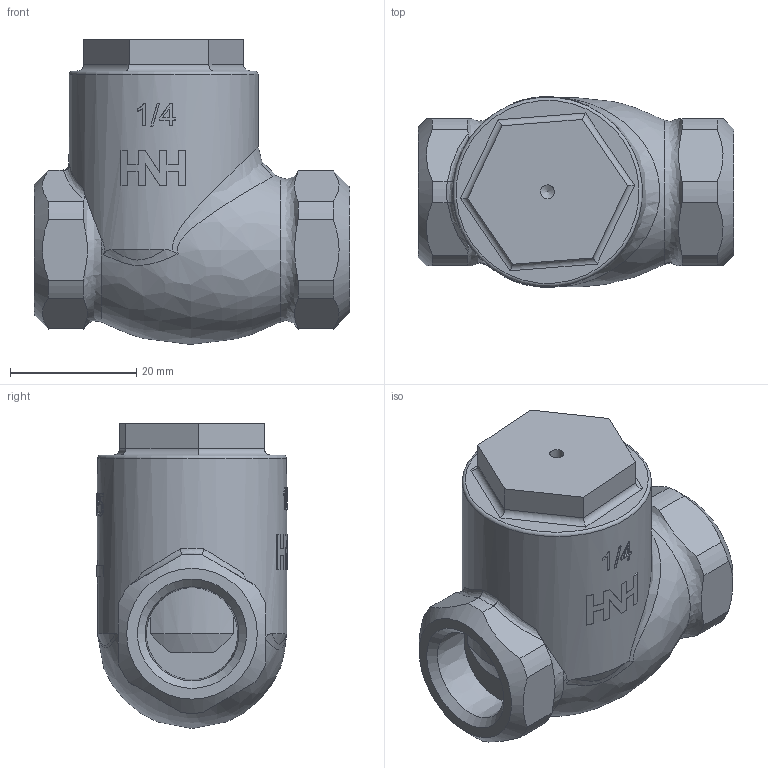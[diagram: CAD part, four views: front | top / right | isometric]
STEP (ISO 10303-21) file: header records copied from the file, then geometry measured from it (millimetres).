
FILE_DESCRIPTION((''),'2;1');
FILE_NAME('P:\Fastrack\53972_CRANE 3D\D142-138\Workspace\Check Valves\Fig-47_1-4in\Fig-47_1-4in.stp','2011-03-03T13:59:01',('btaylor'),(''),'Autodesk Inventor 2008','Autodesk Inventor 2008','');
FILE_SCHEMA(('AUTOMOTIVE_DESIGN { 1 0 10303 214 1 1 1 1 }'));
Length unit declared in the file: millimetre
Products named in the file (1): Fig-47_1-4in
Bounding box: 50 x 30.2 x 48.3 mm (x, y, z)
Volume: 32423.3 mm3; surface area: 9825.8 mm2
Topology: 1 solids, 2 shells, 212 faces, 578 edges, 384 vertices
Faces by surface type: plane 103, bspline 58, cylinder 39, cone 11, torus 1
Full cylindrical faces by diameter (mm): 30 x1
Entity records: 21592 total; most frequent: CARTESIAN_POINT 16642, ORIENTED_EDGE 1112, DIRECTION 743, EDGE_CURVE 556, VERTEX_POINT 375, AXIS2_PLACEMENT_3D 261, EDGE_LOOP 237, VECTOR 221
